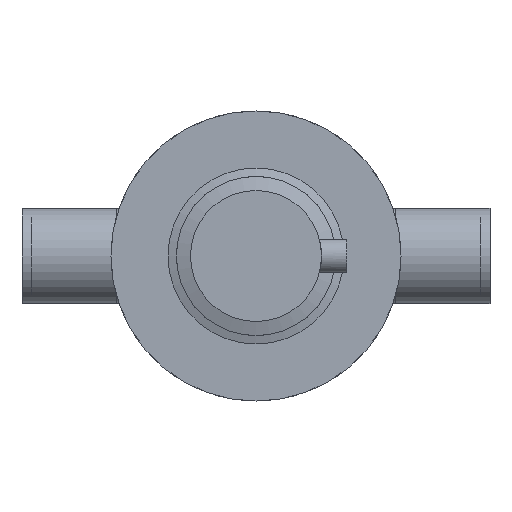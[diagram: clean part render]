
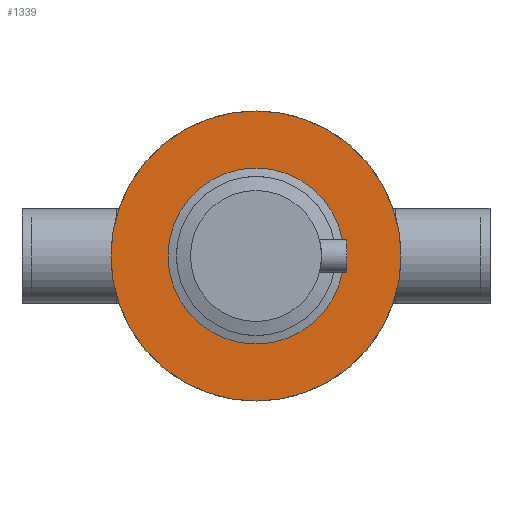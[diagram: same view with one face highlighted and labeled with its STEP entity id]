
A CAD part, front view. The second image highlights one B-rep face of the part: STEP entity #1339.
In plain terms, the highlighted planar face has unit normal (0, -1, 0).
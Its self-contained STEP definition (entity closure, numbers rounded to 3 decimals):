
#97=FACE_BOUND('',#312,.T.);
#124=PLANE('',#1608);
#202=FACE_OUTER_BOUND('',#311,.T.);
#311=EDGE_LOOP('',(#1138,#1139));
#312=EDGE_LOOP('',(#1140,#1141));
#519=CIRCLE('',#1606,42.5);
#520=CIRCLE('',#1607,42.5);
#521=CIRCLE('',#1609,77.5);
#522=CIRCLE('',#1610,77.5);
#656=VERTEX_POINT('',#2551);
#657=VERTEX_POINT('',#2553);
#658=VERTEX_POINT('',#2557);
#659=VERTEX_POINT('',#2558);
#825=EDGE_CURVE('',#657,#656,#519,.T.);
#826=EDGE_CURVE('',#656,#657,#520,.T.);
#827=EDGE_CURVE('',#658,#659,#521,.T.);
#828=EDGE_CURVE('',#659,#658,#522,.T.);
#1138=ORIENTED_EDGE('',*,*,#827,.F.);
#1139=ORIENTED_EDGE('',*,*,#828,.F.);
#1140=ORIENTED_EDGE('',*,*,#825,.T.);
#1141=ORIENTED_EDGE('',*,*,#826,.T.);
#1339=ADVANCED_FACE('',(#202,#97),#124,.F.);
#1606=AXIS2_PLACEMENT_3D('',#2554,#2029,#2030);
#1607=AXIS2_PLACEMENT_3D('',#2555,#2031,#2032);
#1608=AXIS2_PLACEMENT_3D('',#2556,#2033,#2034);
#1609=AXIS2_PLACEMENT_3D('',#2559,#2035,#2036);
#1610=AXIS2_PLACEMENT_3D('',#2560,#2037,#2038);
#2029=DIRECTION('center_axis',(0.,1.,0.));
#2030=DIRECTION('ref_axis',(1.,0.,0.));
#2031=DIRECTION('center_axis',(0.,1.,0.));
#2032=DIRECTION('ref_axis',(1.,0.,0.));
#2033=DIRECTION('center_axis',(0.,1.,0.));
#2034=DIRECTION('ref_axis',(0.,0.,1.));
#2035=DIRECTION('center_axis',(0.,1.,0.));
#2036=DIRECTION('ref_axis',(-1.,0.,0.));
#2037=DIRECTION('center_axis',(0.,1.,0.));
#2038=DIRECTION('ref_axis',(-1.,0.,0.));
#2551=CARTESIAN_POINT('',(42.5,-14.9,0.));
#2553=CARTESIAN_POINT('',(-42.5,-14.9,0.));
#2554=CARTESIAN_POINT('Origin',(0.,-14.9,0.));
#2555=CARTESIAN_POINT('Origin',(0.,-14.9,0.));
#2556=CARTESIAN_POINT('Origin',(-42.5,-14.9,0.));
#2557=CARTESIAN_POINT('',(-77.5,-14.9,0.));
#2558=CARTESIAN_POINT('',(77.5,-14.9,0.));
#2559=CARTESIAN_POINT('Origin',(0.,-14.9,0.));
#2560=CARTESIAN_POINT('Origin',(0.,-14.9,0.));
